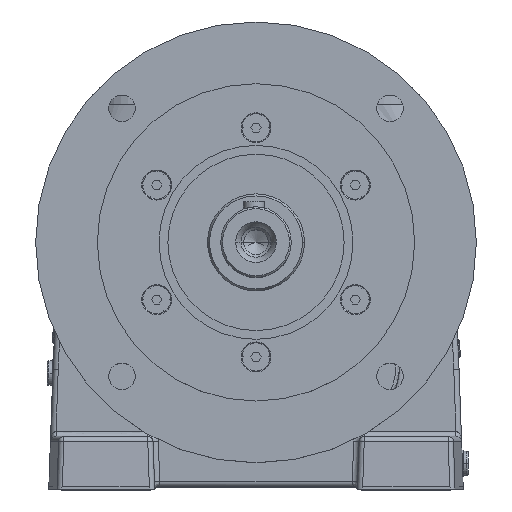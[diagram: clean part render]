
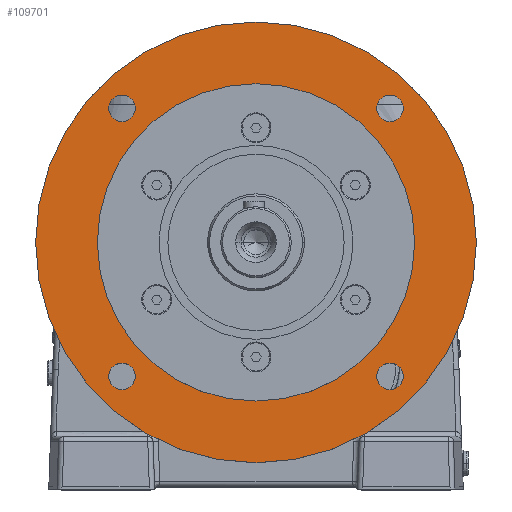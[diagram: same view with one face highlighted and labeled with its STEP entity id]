
A CAD part, top view. The second image highlights one B-rep face of the part: STEP entity #109701.
In plain terms, the highlighted planar face has unit normal (0, 0, 1).
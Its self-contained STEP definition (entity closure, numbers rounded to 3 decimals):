
#3750 = DIRECTION ( 'NONE',  ( 1., 0., 0. ) ) ;
#3751 = DIRECTION ( 'NONE',  ( 0., 0., 1. ) ) ;
#3752 = CARTESIAN_POINT ( 'NONE',  ( 76.014, 76.014, -5. ) ) ;
#3753 = AXIS2_PLACEMENT_3D ( 'NONE', #3752, #3751, #3750 ) ;
#3754 = CIRCLE ( 'NONE', #3753, 7.5 ) ;
#3814 = DIRECTION ( 'NONE',  ( 1., 0., 0. ) ) ;
#3815 = DIRECTION ( 'NONE',  ( 0., 0., 1. ) ) ;
#3816 = CARTESIAN_POINT ( 'NONE',  ( -76.014, 76.014, -5. ) ) ;
#3817 = AXIS2_PLACEMENT_3D ( 'NONE', #3816, #3815, #3814 ) ;
#3818 = CIRCLE ( 'NONE', #3817, 7.5 ) ;
#3823 = CARTESIAN_POINT ( 'NONE',  ( -83.514, 76.014, -5. ) ) ;
#3847 = CIRCLE ( 'NONE', #3903, 7.5 ) ;
#3852 = CARTESIAN_POINT ( 'NONE',  ( -83.514, -76.014, -5. ) ) ;
#3899 = CARTESIAN_POINT ( 'NONE',  ( -68.514, -76.014, -5. ) ) ;
#3900 = DIRECTION ( 'NONE',  ( 1., 0., 0. ) ) ;
#3901 = DIRECTION ( 'NONE',  ( 0., 0., 1. ) ) ;
#3902 = CARTESIAN_POINT ( 'NONE',  ( -76.014, -76.014, -5. ) ) ;
#3903 = AXIS2_PLACEMENT_3D ( 'NONE', #3902, #3901, #3900 ) ;
#3959 = CARTESIAN_POINT ( 'NONE',  ( 83.514, -76.014, -5. ) ) ;
#3960 = CARTESIAN_POINT ( 'NONE',  ( 83.514, 76.014, -5. ) ) ;
#3961 = CARTESIAN_POINT ( 'NONE',  ( 68.514, 76.014, -5. ) ) ;
#3968 = CARTESIAN_POINT ( 'NONE',  ( 125., 0., -5. ) ) ;
#3970 = DIRECTION ( 'NONE',  ( 1., 0., 0. ) ) ;
#3971 = DIRECTION ( 'NONE',  ( 0., 0., 1. ) ) ;
#3972 = CARTESIAN_POINT ( 'NONE',  ( 0., 0., -5. ) ) ;
#3973 = AXIS2_PLACEMENT_3D ( 'NONE', #3972, #3971, #3970 ) ;
#3974 = CIRCLE ( 'NONE', #3973, 125. ) ;
#3975 = CARTESIAN_POINT ( 'NONE',  ( -125., 0., -5. ) ) ;
#4017 = CARTESIAN_POINT ( 'NONE',  ( -68.514, 76.014, -5. ) ) ;
#4083 = CARTESIAN_POINT ( 'NONE',  ( 68.514, -76.014, -5. ) ) ;
#4116 = DIRECTION ( 'NONE',  ( 1., 0., 0. ) ) ;
#4117 = DIRECTION ( 'NONE',  ( 0., 0., 1. ) ) ;
#4118 = CARTESIAN_POINT ( 'NONE',  ( 76.014, -76.014, -5. ) ) ;
#4119 = AXIS2_PLACEMENT_3D ( 'NONE', #4118, #4117, #4116 ) ;
#4120 = CIRCLE ( 'NONE', #4119, 7.5 ) ;
#4153 = CARTESIAN_POINT ( 'NONE',  ( 90., 0., -5. ) ) ;
#4154 = DIRECTION ( 'NONE',  ( 1., 0., 0. ) ) ;
#4155 = DIRECTION ( 'NONE',  ( 0., 0., 1. ) ) ;
#4156 = CARTESIAN_POINT ( 'NONE',  ( 0., 0., -5. ) ) ;
#4157 = AXIS2_PLACEMENT_3D ( 'NONE', #4156, #4155, #4154 ) ;
#4158 = CIRCLE ( 'NONE', #4157, 90. ) ;
#4195 = CARTESIAN_POINT ( 'NONE',  ( -90., 0., -5. ) ) ;
#4225 = FACE_BOUND ( 'NONE', #111297, .T. ) ;
#4226 = FACE_BOUND ( 'NONE', #110121, .T. ) ;
#4227 = FACE_OUTER_BOUND ( 'NONE', #110081, .T. ) ;
#4228 = FACE_BOUND ( 'NONE', #109881, .T. ) ;
#4229 = FACE_BOUND ( 'NONE', #109962, .T. ) ;
#4230 = FACE_BOUND ( 'NONE', #109704, .T. ) ;
#4267 = DIRECTION ( 'NONE',  ( -1., 0., 0. ) ) ;
#4268 = DIRECTION ( 'NONE',  ( 0., 0., -1. ) ) ;
#4269 = CARTESIAN_POINT ( 'NONE',  ( 0., 90., -5. ) ) ;
#4270 = AXIS2_PLACEMENT_3D ( 'NONE', #4269, #4268, #4267 ) ;
#4271 = PLANE ( 'NONE',  #4270 ) ;
#4653 = DIRECTION ( 'NONE',  ( 1., 0., 0. ) ) ;
#4654 = DIRECTION ( 'NONE',  ( 0., 0., 1. ) ) ;
#4655 = CARTESIAN_POINT ( 'NONE',  ( -76.014, 76.014, -5. ) ) ;
#4656 = AXIS2_PLACEMENT_3D ( 'NONE', #4655, #4654, #4653 ) ;
#4657 = CIRCLE ( 'NONE', #4656, 7.5 ) ;
#4706 = DIRECTION ( 'NONE',  ( 1., 0., 0. ) ) ;
#4724 = DIRECTION ( 'NONE',  ( 0., 0., 1. ) ) ;
#4725 = CARTESIAN_POINT ( 'NONE',  ( 76.014, 76.014, -5. ) ) ;
#4726 = AXIS2_PLACEMENT_3D ( 'NONE', #4725, #4724, #4706 ) ;
#4727 = CIRCLE ( 'NONE', #4726, 7.5 ) ;
#4728 = CARTESIAN_POINT ( 'NONE',  ( -76.014, -76.014, -5. ) ) ;
#4792 = DIRECTION ( 'NONE',  ( 1., 0., 0. ) ) ;
#4793 = DIRECTION ( 'NONE',  ( 0., 0., 1. ) ) ;
#4794 = AXIS2_PLACEMENT_3D ( 'NONE', #4728, #4793, #4792 ) ;
#4795 = CIRCLE ( 'NONE', #4794, 7.5 ) ;
#4873 = DIRECTION ( 'NONE',  ( 1., 0., 0. ) ) ;
#4874 = DIRECTION ( 'NONE',  ( 0., 0., 1. ) ) ;
#4875 = CARTESIAN_POINT ( 'NONE',  ( 0., 0., -5. ) ) ;
#4876 = AXIS2_PLACEMENT_3D ( 'NONE', #4875, #4874, #4873 ) ;
#4877 = CIRCLE ( 'NONE', #4876, 125. ) ;
#7992 = DIRECTION ( 'NONE',  ( 1., 0., 0. ) ) ;
#7993 = DIRECTION ( 'NONE',  ( 0., 0., 1. ) ) ;
#7994 = CARTESIAN_POINT ( 'NONE',  ( 76.014, -76.014, -5. ) ) ;
#7995 = AXIS2_PLACEMENT_3D ( 'NONE', #7994, #7993, #7992 ) ;
#7996 = CIRCLE ( 'NONE', #7995, 7.5 ) ;
#8049 = DIRECTION ( 'NONE',  ( 1., 0., 0. ) ) ;
#8050 = DIRECTION ( 'NONE',  ( 0., 0., 1. ) ) ;
#8051 = CARTESIAN_POINT ( 'NONE',  ( 0., 0., -5. ) ) ;
#8052 = AXIS2_PLACEMENT_3D ( 'NONE', #8051, #8050, #8049 ) ;
#8053 = CIRCLE ( 'NONE', #8052, 90. ) ;
#107831 = ORIENTED_EDGE ( 'NONE', *, *, #110042, .F. ) ;
#109336 = EDGE_CURVE ( 'NONE', #109466, #109468, #3754, .T. ) ;
#109379 = VERTEX_POINT ( 'NONE', #3823 ) ;
#109385 = EDGE_CURVE ( 'NONE', #109379, #109525, #3818, .T. ) ;
#109413 = VERTEX_POINT ( 'NONE', #3852 ) ;
#109418 = EDGE_CURVE ( 'NONE', #109413, #109420, #3847, .T. ) ;
#109420 = VERTEX_POINT ( 'NONE', #3899 ) ;
#109466 = VERTEX_POINT ( 'NONE', #3961 ) ;
#109468 = VERTEX_POINT ( 'NONE', #3960 ) ;
#109469 = VERTEX_POINT ( 'NONE', #3959 ) ;
#109505 = VERTEX_POINT ( 'NONE', #3975 ) ;
#109514 = EDGE_CURVE ( 'NONE', #109516, #109505, #3974, .T. ) ;
#109516 = VERTEX_POINT ( 'NONE', #3968 ) ;
#109525 = VERTEX_POINT ( 'NONE', #4017 ) ;
#109608 = VERTEX_POINT ( 'NONE', #4083 ) ;
#109614 = EDGE_CURVE ( 'NONE', #109608, #109469, #4120, .T. ) ;
#109631 = EDGE_CURVE ( 'NONE', #109633, #109638, #4158, .T. ) ;
#109633 = VERTEX_POINT ( 'NONE', #4153 ) ;
#109638 = VERTEX_POINT ( 'NONE', #4195 ) ;
#109701 = ADVANCED_FACE ( 'NONE', ( #4230, #4229, #4228, #4227, #4226, #4225 ), #4271, .F. ) ;
#109704 = EDGE_LOOP ( 'NONE', ( #107831, #109958 ) ) ;
#109881 = EDGE_LOOP ( 'NONE', ( #110075, #109984 ) ) ;
#109958 = ORIENTED_EDGE ( 'NONE', *, *, #109336, .F. ) ;
#109962 = EDGE_LOOP ( 'NONE', ( #110009, #110023 ) ) ;
#109984 = ORIENTED_EDGE ( 'NONE', *, *, #109418, .F. ) ;
#109987 = ORIENTED_EDGE ( 'NONE', *, *, #109514, .T. ) ;
#110009 = ORIENTED_EDGE ( 'NONE', *, *, #110011, .F. ) ;
#110011 = EDGE_CURVE ( 'NONE', #109525, #109379, #4657, .T. ) ;
#110023 = ORIENTED_EDGE ( 'NONE', *, *, #109385, .F. ) ;
#110042 = EDGE_CURVE ( 'NONE', #109468, #109466, #4727, .T. ) ;
#110075 = ORIENTED_EDGE ( 'NONE', *, *, #110078, .F. ) ;
#110078 = EDGE_CURVE ( 'NONE', #109420, #109413, #4795, .T. ) ;
#110081 = EDGE_LOOP ( 'NONE', ( #109987, #110143 ) ) ;
#110119 = EDGE_CURVE ( 'NONE', #109505, #109516, #4877, .T. ) ;
#110121 = EDGE_LOOP ( 'NONE', ( #110124, #111216 ) ) ;
#110124 = ORIENTED_EDGE ( 'NONE', *, *, #109631, .F. ) ;
#110143 = ORIENTED_EDGE ( 'NONE', *, *, #110119, .T. ) ;
#111216 = ORIENTED_EDGE ( 'NONE', *, *, #111335, .F. ) ;
#111218 = ORIENTED_EDGE ( 'NONE', *, *, #109614, .F. ) ;
#111294 = EDGE_CURVE ( 'NONE', #109469, #109608, #7996, .T. ) ;
#111297 = EDGE_LOOP ( 'NONE', ( #111304, #111218 ) ) ;
#111304 = ORIENTED_EDGE ( 'NONE', *, *, #111294, .F. ) ;
#111335 = EDGE_CURVE ( 'NONE', #109638, #109633, #8053, .T. ) ;
